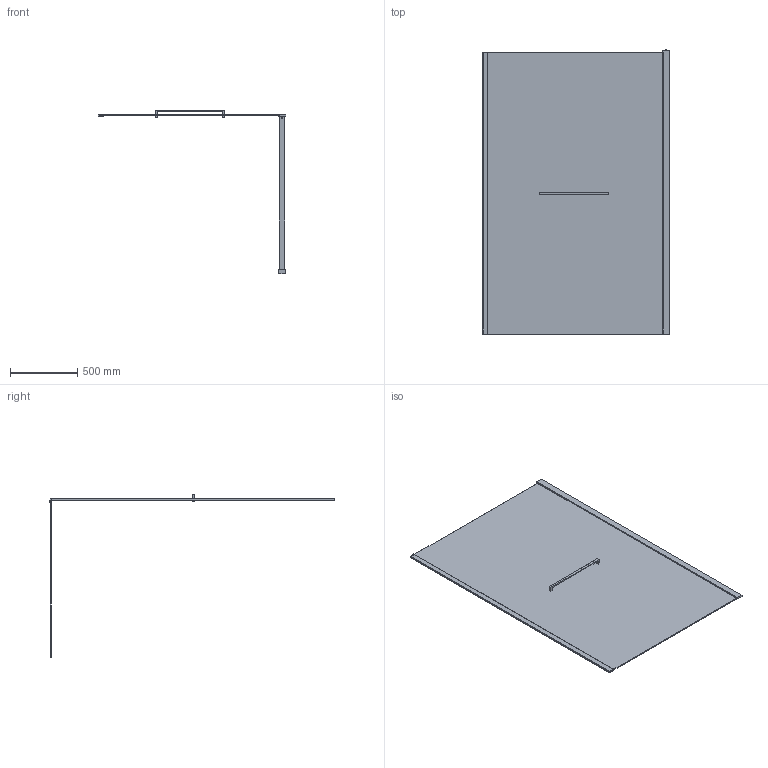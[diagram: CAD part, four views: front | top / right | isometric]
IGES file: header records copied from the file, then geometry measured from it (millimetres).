
Start section: SolidWorks IGES file using analytic representation for surfaces
Global section: file name: D:\Users\M.Szymanski\Desktop\Kabiny\PI_ALTIIa\PI_ALTIIa_140_wspornik poziomy_K3D.IGS; native system: SolidWorks 2011; preprocessor: SolidWorks 2011; author: M.Szymanski; date: 181002.134336; units: millimetre
Bounding box: 1396.4 x 2124.7 x 1223.1 mm (x, y, z)
Surface area: 6556158.3 mm2 (no closed solid volume)
Topology: 0 solids, 0 shells, 56 faces, 367 edges, 477 vertices
Faces by surface type: bspline 52, revolution 4
